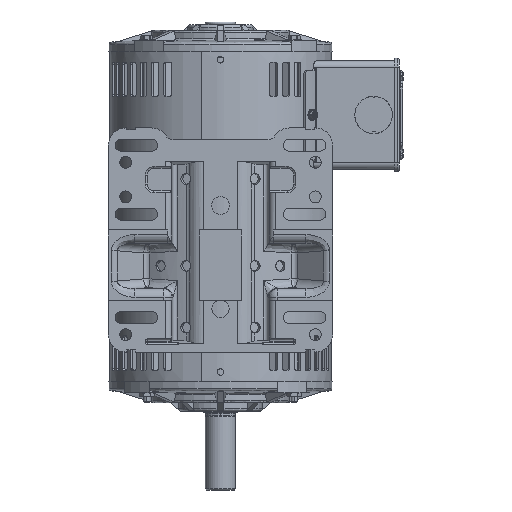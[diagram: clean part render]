
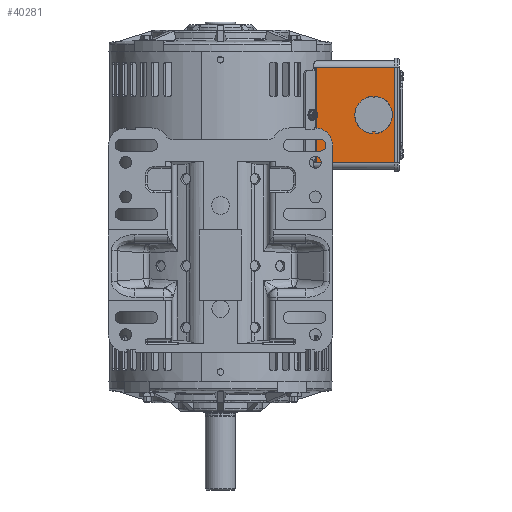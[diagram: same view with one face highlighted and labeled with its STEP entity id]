
A CAD part, front view. The second image highlights one B-rep face of the part: STEP entity #40281.
In plain terms, the highlighted planar face has unit normal (0, -1, 0).
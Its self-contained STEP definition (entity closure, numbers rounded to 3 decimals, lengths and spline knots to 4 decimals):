
#38 = CARTESIAN_POINT ( 'NONE',  ( 4.395, -1.81, 10.3313 ) ) ;
#271 = DIRECTION ( 'NONE',  ( -1., 0., 0. ) ) ;
#535 = VECTOR ( 'NONE', #8911, 39.3701 ) ;
#822 = VECTOR ( 'NONE', #12664, 39.3701 ) ;
#1698 = CARTESIAN_POINT ( 'NONE',  ( 4.395, -1.81, 10.3313 ) ) ;
#1744 = CIRCLE ( 'NONE', #108820, 0.545 ) ;
#3477 = VECTOR ( 'NONE', #74745, 39.3701 ) ;
#6269 = PLANE ( 'NONE',  #61722 ) ;
#6286 = CARTESIAN_POINT ( 'NONE',  ( 3.895, -1.81, 10.8744 ) ) ;
#7207 = ORIENTED_EDGE ( 'NONE', *, *, #90371, .F. ) ;
#8911 = DIRECTION ( 'NONE',  ( 0., 0., 1. ) ) ;
#9559 = EDGE_LOOP ( 'NONE', ( #27077, #80589, #91891, #91435, #15556, #115030, #7207 ) ) ;
#10132 = DIRECTION ( 'NONE',  ( 0., 0., -1. ) ) ;
#10619 = CARTESIAN_POINT ( 'NONE',  ( 2.6873, -1.81, 9.3044 ) ) ;
#11251 = CARTESIAN_POINT ( 'NONE',  ( 4.485, -1.81, 10.3313 ) ) ;
#12664 = DIRECTION ( 'NONE',  ( 0., 0., -1. ) ) ;
#13003 = CARTESIAN_POINT ( 'NONE',  ( 5.14, -1.81, 9.5144 ) ) ;
#15556 = ORIENTED_EDGE ( 'NONE', *, *, #106505, .T. ) ;
#15621 = EDGE_CURVE ( 'NONE', #79139, #89793, #61977, .T. ) ;
#16358 = VECTOR ( 'NONE', #34793, 39.3701 ) ;
#17816 = AXIS2_PLACEMENT_3D ( 'NONE', #83245, #36861, #271 ) ;
#18053 = CARTESIAN_POINT ( 'NONE',  ( 4.485, -1.81, 10.3844 ) ) ;
#19203 = ORIENTED_EDGE ( 'NONE', *, *, #24192, .T. ) ;
#20914 = LINE ( 'NONE', #65431, #62542 ) ;
#20967 = ORIENTED_EDGE ( 'NONE', *, *, #110881, .T. ) ;
#21933 = DIRECTION ( 'NONE',  ( -1., 0., 0. ) ) ;
#22221 = LINE ( 'NONE', #59242, #69500 ) ;
#22368 = LINE ( 'NONE', #30000, #822 ) ;
#22786 = VECTOR ( 'NONE', #86712, 39.3701 ) ;
#24042 = CARTESIAN_POINT ( 'NONE',  ( 5.14, -1.81, 12.2644 ) ) ;
#24192 = EDGE_CURVE ( 'NONE', #78807, #96099, #90825, .T. ) ;
#25515 = ORIENTED_EDGE ( 'NONE', *, *, #51976, .T. ) ;
#26071 = CIRCLE ( 'NONE', #79151, 0.545 ) ;
#27077 = ORIENTED_EDGE ( 'NONE', *, *, #98090, .F. ) ;
#27545 = CARTESIAN_POINT ( 'NONE',  ( 2.6873, -1.81, 12.2344 ) ) ;
#29883 = CARTESIAN_POINT ( 'NONE',  ( 2.6873, -1.81, 9.5144 ) ) ;
#30000 = CARTESIAN_POINT ( 'NONE',  ( 2.7915, -1.81, 9.5744 ) ) ;
#30353 = LINE ( 'NONE', #48683, #81919 ) ;
#30711 = CARTESIAN_POINT ( 'NONE',  ( 4.41, -1.81, 11.4186 ) ) ;
#31310 = VERTEX_POINT ( 'NONE', #70950 ) ;
#34793 = DIRECTION ( 'NONE',  ( 0., 0., -1. ) ) ;
#35807 = CARTESIAN_POINT ( 'NONE',  ( 2.6873, -1.81, 12.2644 ) ) ;
#36861 = DIRECTION ( 'NONE',  ( 0., -1., 0. ) ) ;
#38662 = VECTOR ( 'NONE', #84480, 39.3701 ) ;
#40281 = ADVANCED_FACE ( 'NONE', ( #98508, #46981 ), #6269, .F. ) ;
#40336 = ORIENTED_EDGE ( 'NONE', *, *, #69871, .T. ) ;
#40809 = LINE ( 'NONE', #107973, #16358 ) ;
#42316 = EDGE_CURVE ( 'NONE', #56145, #47668, #20914, .T. ) ;
#42539 = VERTEX_POINT ( 'NONE', #47289 ) ;
#42961 = CARTESIAN_POINT ( 'NONE',  ( 4.395, -1.81, 10.3844 ) ) ;
#45900 = ORIENTED_EDGE ( 'NONE', *, *, #105580, .T. ) ;
#46981 = FACE_OUTER_BOUND ( 'NONE', #113504, .T. ) ;
#47289 = CARTESIAN_POINT ( 'NONE',  ( 4.47, -1.81, 11.4186 ) ) ;
#47615 = EDGE_CURVE ( 'NONE', #31310, #88443, #70907, .T. ) ;
#47668 = VERTEX_POINT ( 'NONE', #57919 ) ;
#48285 = DIRECTION ( 'NONE',  ( 1., 0., 0. ) ) ;
#48683 = CARTESIAN_POINT ( 'NONE',  ( 2.7915, -1.81, 12.2344 ) ) ;
#49139 = EDGE_CURVE ( 'NONE', #70612, #42539, #86367, .T. ) ;
#49285 = ORIENTED_EDGE ( 'NONE', *, *, #112903, .T. ) ;
#51976 = EDGE_CURVE ( 'NONE', #31310, #78807, #98801, .T. ) ;
#56145 = VERTEX_POINT ( 'NONE', #11251 ) ;
#57266 = ORIENTED_EDGE ( 'NONE', *, *, #47615, .F. ) ;
#57919 = CARTESIAN_POINT ( 'NONE',  ( 4.485, -1.81, 10.3844 ) ) ;
#59242 = CARTESIAN_POINT ( 'NONE',  ( 5.14, -1.81, 12.2644 ) ) ;
#59699 = VERTEX_POINT ( 'NONE', #91464 ) ;
#60243 = CARTESIAN_POINT ( 'NONE',  ( 4.44, -1.81, 10.8744 ) ) ;
#60432 = CARTESIAN_POINT ( 'NONE',  ( 5.14, -1.81, 9.3044 ) ) ;
#60642 = DIRECTION ( 'NONE',  ( -1., 0., 0. ) ) ;
#61722 = AXIS2_PLACEMENT_3D ( 'NONE', #60432, #69649, #78855 ) ;
#61977 = LINE ( 'NONE', #1698, #96298 ) ;
#62542 = VECTOR ( 'NONE', #75778, 39.3701 ) ;
#65431 = CARTESIAN_POINT ( 'NONE',  ( 4.485, -1.81, 10.3313 ) ) ;
#69500 = VECTOR ( 'NONE', #116825, 39.3701 ) ;
#69649 = DIRECTION ( 'NONE',  ( 0., 1., 0. ) ) ;
#69871 = EDGE_CURVE ( 'NONE', #107593, #88443, #71504, .T. ) ;
#70612 = VERTEX_POINT ( 'NONE', #30711 ) ;
#70907 = LINE ( 'NONE', #10619, #3477 ) ;
#70950 = CARTESIAN_POINT ( 'NONE',  ( 2.6873, -1.81, 9.4844 ) ) ;
#71504 = LINE ( 'NONE', #13003, #22786 ) ;
#71753 = VERTEX_POINT ( 'NONE', #6286 ) ;
#73707 = DIRECTION ( 'NONE',  ( -1., 0., 0. ) ) ;
#74302 = DIRECTION ( 'NONE',  ( -1., 0., 0. ) ) ;
#74745 = DIRECTION ( 'NONE',  ( 0., 0., 1. ) ) ;
#75778 = DIRECTION ( 'NONE',  ( 0., 0., 1. ) ) ;
#78807 = VERTEX_POINT ( 'NONE', #83247 ) ;
#78855 = DIRECTION ( 'NONE',  ( 1., 0., 0. ) ) ;
#79139 = VERTEX_POINT ( 'NONE', #42961 ) ;
#79151 = AXIS2_PLACEMENT_3D ( 'NONE', #103062, #110722, #74302 ) ;
#80589 = ORIENTED_EDGE ( 'NONE', *, *, #49139, .T. ) ;
#81919 = VECTOR ( 'NONE', #48285, 39.3701 ) ;
#82243 = LINE ( 'NONE', #18053, #109444 ) ;
#83245 = CARTESIAN_POINT ( 'NONE',  ( 4.44, -1.81, 11.4194 ) ) ;
#83247 = CARTESIAN_POINT ( 'NONE',  ( 5.14, -1.81, 9.4844 ) ) ;
#83416 = CARTESIAN_POINT ( 'NONE',  ( 5.14, -1.81, 9.3044 ) ) ;
#84480 = DIRECTION ( 'NONE',  ( 1., 0., 0. ) ) ;
#85226 = EDGE_CURVE ( 'NONE', #56145, #42539, #1744, .T. ) ;
#86367 = CIRCLE ( 'NONE', #17816, 0.03 ) ;
#86395 = DIRECTION ( 'NONE',  ( 0., -1., 0. ) ) ;
#86712 = DIRECTION ( 'NONE',  ( -1., 0., 0. ) ) ;
#87853 = DIRECTION ( 'NONE',  ( 0., -1., 0. ) ) ;
#88270 = ORIENTED_EDGE ( 'NONE', *, *, #94034, .T. ) ;
#88443 = VERTEX_POINT ( 'NONE', #29883 ) ;
#89793 = VERTEX_POINT ( 'NONE', #38 ) ;
#90371 = EDGE_CURVE ( 'NONE', #71753, #89793, #106653, .T. ) ;
#90825 = LINE ( 'NONE', #83416, #535 ) ;
#91435 = ORIENTED_EDGE ( 'NONE', *, *, #42316, .T. ) ;
#91464 = CARTESIAN_POINT ( 'NONE',  ( 2.7915, -1.81, 12.2344 ) ) ;
#91891 = ORIENTED_EDGE ( 'NONE', *, *, #85226, .F. ) ;
#94034 = EDGE_CURVE ( 'NONE', #115573, #59699, #30353, .T. ) ;
#94040 = CARTESIAN_POINT ( 'NONE',  ( 4.44, -1.81, 10.8744 ) ) ;
#94855 = CARTESIAN_POINT ( 'NONE',  ( 2.7915, -1.81, 9.5144 ) ) ;
#96099 = VERTEX_POINT ( 'NONE', #24042 ) ;
#96298 = VECTOR ( 'NONE', #10132, 39.3701 ) ;
#98090 = EDGE_CURVE ( 'NONE', #70612, #71753, #26071, .T. ) ;
#98508 = FACE_BOUND ( 'NONE', #9559, .T. ) ;
#98801 = LINE ( 'NONE', #111292, #38662 ) ;
#101866 = VERTEX_POINT ( 'NONE', #35807 ) ;
#102266 = AXIS2_PLACEMENT_3D ( 'NONE', #94040, #86395, #21933 ) ;
#103062 = CARTESIAN_POINT ( 'NONE',  ( 4.44, -1.81, 10.8744 ) ) ;
#105580 = EDGE_CURVE ( 'NONE', #96099, #101866, #22221, .T. ) ;
#106505 = EDGE_CURVE ( 'NONE', #47668, #79139, #82243, .T. ) ;
#106653 = CIRCLE ( 'NONE', #102266, 0.545 ) ;
#107593 = VERTEX_POINT ( 'NONE', #94855 ) ;
#107973 = CARTESIAN_POINT ( 'NONE',  ( 2.6873, -1.81, 9.3044 ) ) ;
#108820 = AXIS2_PLACEMENT_3D ( 'NONE', #60243, #87853, #60642 ) ;
#109444 = VECTOR ( 'NONE', #73707, 39.3701 ) ;
#110722 = DIRECTION ( 'NONE',  ( 0., -1., 0. ) ) ;
#110881 = EDGE_CURVE ( 'NONE', #59699, #107593, #22368, .T. ) ;
#111292 = CARTESIAN_POINT ( 'NONE',  ( 5.14, -1.81, 9.4844 ) ) ;
#112903 = EDGE_CURVE ( 'NONE', #101866, #115573, #40809, .T. ) ;
#113504 = EDGE_LOOP ( 'NONE', ( #49285, #88270, #20967, #40336, #57266, #25515, #19203, #45900 ) ) ;
#115030 = ORIENTED_EDGE ( 'NONE', *, *, #15621, .T. ) ;
#115573 = VERTEX_POINT ( 'NONE', #27545 ) ;
#116825 = DIRECTION ( 'NONE',  ( -1., 0., 0. ) ) ;
